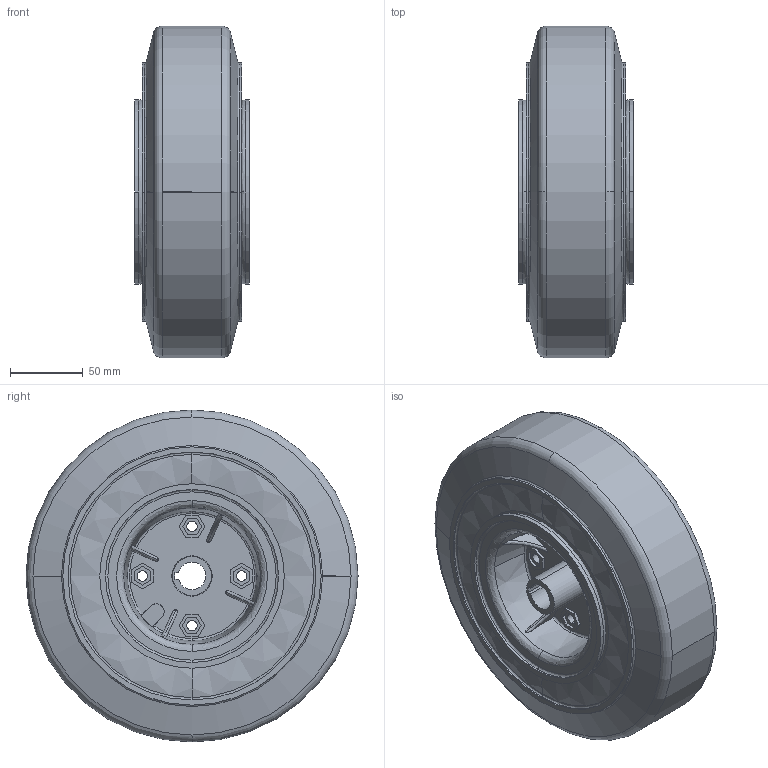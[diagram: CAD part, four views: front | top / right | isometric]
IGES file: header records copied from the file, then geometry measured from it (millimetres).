
Global section: file name: C:\Documents and Settings\Administrator\Desktop\Transfer Temp\skywaywheel.igs; native system: AutoDesk Inventor R2.0 ; preprocessor: AutoDesk Inventor Iges Exporter R2.0; author: No Author specified; organization: No Organization specified; date: 20020125.220121; units: inch
Bounding box: 78.74 x 228.6 x 228.6 mm (x, y, z)
Surface area: 235990.3 mm2 (no closed solid volume)
Topology: 0 solids, 0 shells, 262 faces, 1394 edges, 1392 vertices
Faces by surface type: bspline 162, revolution 100
